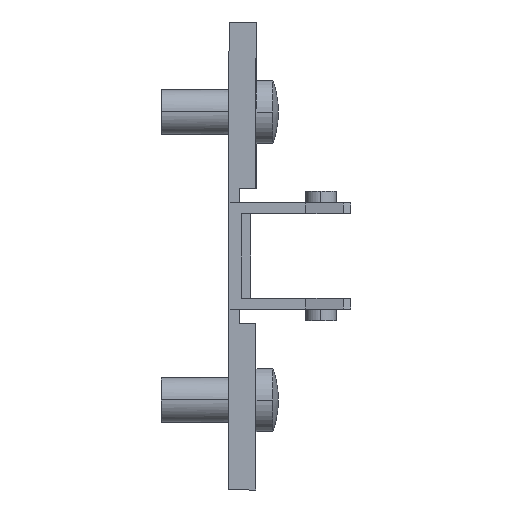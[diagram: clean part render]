
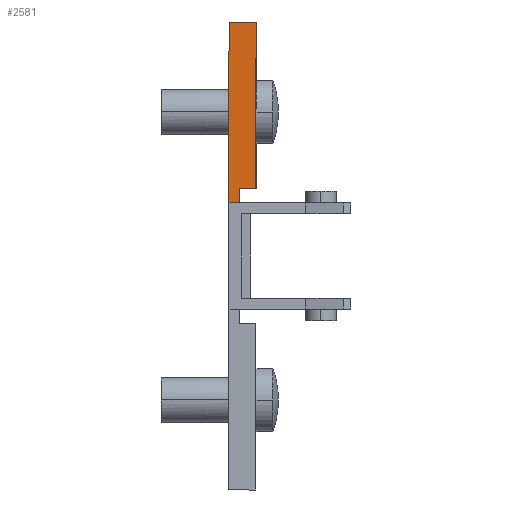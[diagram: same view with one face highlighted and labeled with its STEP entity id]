
A CAD part, front view. The second image highlights one B-rep face of the part: STEP entity #2581.
In plain terms, the highlighted planar face has unit normal (0, -1, 0).
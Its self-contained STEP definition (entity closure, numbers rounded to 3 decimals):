
#3 = CARTESIAN_POINT ( 'NONE',  ( 0., -9., 26. ) ) ;
#146 = VERTEX_POINT ( 'NONE', #3 ) ;
#159 = VERTEX_POINT ( 'NONE', #2666 ) ;
#282 = EDGE_CURVE ( 'NONE', #159, #146, #2598, .T. ) ;
#315 = EDGE_CURVE ( 'NONE', #2790, #2796, #1925, .T. ) ;
#483 = EDGE_CURVE ( 'NONE', #146, #2785, #2520, .T. ) ;
#492 = EDGE_CURVE ( 'NONE', #2785, #2790, #2500, .T. ) ;
#611 = DIRECTION ( 'NONE',  ( -1., 0., 0. ) ) ;
#693 = CARTESIAN_POINT ( 'NONE',  ( 3., -9., 7.5 ) ) ;
#746 = CARTESIAN_POINT ( 'NONE',  ( 3., -9., 26. ) ) ;
#756 = CARTESIAN_POINT ( 'NONE',  ( 1.2, -9., 5.9 ) ) ;
#794 = CARTESIAN_POINT ( 'NONE',  ( 3., -9., 7.5 ) ) ;
#800 = CARTESIAN_POINT ( 'NONE',  ( 1.2, -9., 7.5 ) ) ;
#919 = CARTESIAN_POINT ( 'NONE',  ( 0., -9., 5. ) ) ;
#944 = DIRECTION ( 'NONE',  ( 0., 0., 1. ) ) ;
#1118 = CARTESIAN_POINT ( 'NONE',  ( 0., -9., 5. ) ) ;
#1124 = DIRECTION ( 'NONE',  ( 0., 1., 0. ) ) ;
#1125 = DIRECTION ( 'NONE',  ( 0., 0., 1. ) ) ;
#1206 = PLANE ( 'NONE',  #2179 ) ;
#1271 = CARTESIAN_POINT ( 'NONE',  ( 1.2, -9., 7.5 ) ) ;
#1272 = DIRECTION ( 'NONE',  ( 0., 0., -1. ) ) ;
#1421 = DIRECTION ( 'NONE',  ( 1., 0., 0. ) ) ;
#1422 = CARTESIAN_POINT ( 'NONE',  ( 0., -9., 26. ) ) ;
#1450 = DIRECTION ( 'NONE',  ( 0., 0., -1. ) ) ;
#1452 = CARTESIAN_POINT ( 'NONE',  ( 3., -9., 26. ) ) ;
#1588 = CARTESIAN_POINT ( 'NONE',  ( 0., -9., 5.9 ) ) ;
#1590 = DIRECTION ( 'NONE',  ( -1., 0., 0. ) ) ;
#1922 = VECTOR ( 'NONE', #611, 1000. ) ;
#1925 = LINE ( 'NONE', #693, #1922 ) ;
#2062 = EDGE_CURVE ( 'NONE', #2792, #159, #2411, .T. ) ;
#2141 = EDGE_CURVE ( 'NONE', #2796, #2792, #2371, .T. ) ;
#2179 = AXIS2_PLACEMENT_3D ( 'NONE', #1118, #1124, #1125 ) ;
#2305 = FACE_OUTER_BOUND ( 'NONE', #3533, .T. ) ;
#2370 = VECTOR ( 'NONE', #1272, 1000. ) ;
#2371 = LINE ( 'NONE', #1271, #2370 ) ;
#2410 = VECTOR ( 'NONE', #1590, 1000. ) ;
#2411 = LINE ( 'NONE', #1588, #2410 ) ;
#2499 = VECTOR ( 'NONE', #1450, 1000. ) ;
#2500 = LINE ( 'NONE', #1452, #2499 ) ;
#2519 = VECTOR ( 'NONE', #1421, 1000. ) ;
#2520 = LINE ( 'NONE', #1422, #2519 ) ;
#2581 = ADVANCED_FACE ( 'NONE', ( #2305 ), #1206, .F. ) ;
#2589 = VECTOR ( 'NONE', #944, 1000. ) ;
#2598 = LINE ( 'NONE', #919, #2589 ) ;
#2666 = CARTESIAN_POINT ( 'NONE',  ( 0., -9., 5.9 ) ) ;
#2785 = VERTEX_POINT ( 'NONE', #746 ) ;
#2790 = VERTEX_POINT ( 'NONE', #794 ) ;
#2792 = VERTEX_POINT ( 'NONE', #756 ) ;
#2796 = VERTEX_POINT ( 'NONE', #800 ) ;
#2936 = ORIENTED_EDGE ( 'NONE', *, *, #282, .F. ) ;
#2937 = ORIENTED_EDGE ( 'NONE', *, *, #2062, .F. ) ;
#2938 = ORIENTED_EDGE ( 'NONE', *, *, #2141, .F. ) ;
#2959 = ORIENTED_EDGE ( 'NONE', *, *, #315, .F. ) ;
#2960 = ORIENTED_EDGE ( 'NONE', *, *, #492, .F. ) ;
#2961 = ORIENTED_EDGE ( 'NONE', *, *, #483, .F. ) ;
#3533 = EDGE_LOOP ( 'NONE', ( #2936, #2937, #2938, #2959, #2960, #2961 ) ) ;
